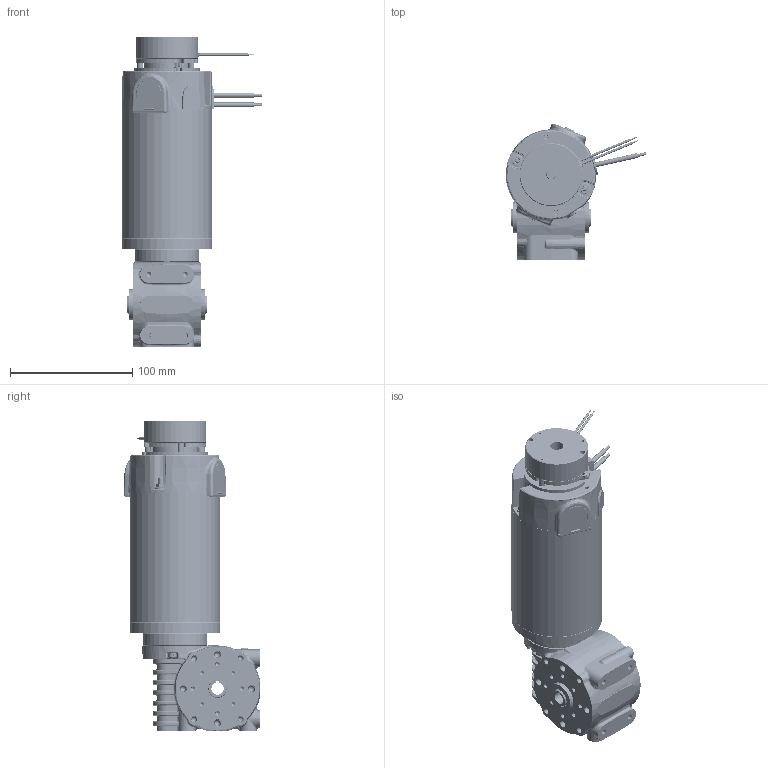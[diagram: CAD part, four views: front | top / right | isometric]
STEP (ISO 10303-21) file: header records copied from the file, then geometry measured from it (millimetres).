
FILE_DESCRIPTION (( 'STEP AP214' ), '1' );
FILE_NAME ('BRx70-60-GB80 - Brake.STEP', '2025-04-29T08:03:21', ( '' ), ( '' ), 'SwSTEP 2.0', 'SolidWorks 2023', '' );
FILE_SCHEMA (( 'AUTOMOTIVE_DESIGN' ));
Length unit declared in the file: millimetre
Products named in the file (1): BRx70-60-GB80 - Brake
Bounding box: 115.11 x 111.85 x 254.74 mm (x, y, z)
Volume: 509461.8 mm3; surface area: 226428.8 mm2
Topology: 47 solids, 47 shells, 5048 faces, 12941 edges, 8010 vertices
Faces by surface type: cylinder 2389, plane 920, bspline 619, cone 573, torus 477, sphere 70
Entity records: 247118 total; most frequent: CARTESIAN_POINT 72707, ORIENTED_EDGE 25558, DIRECTION 24783, EDGE_CURVE 12779, AXIS2_PLACEMENT_3D 10179, VERTEX_POINT 8010, CIRCLE 5749, EDGE_LOOP 5345
